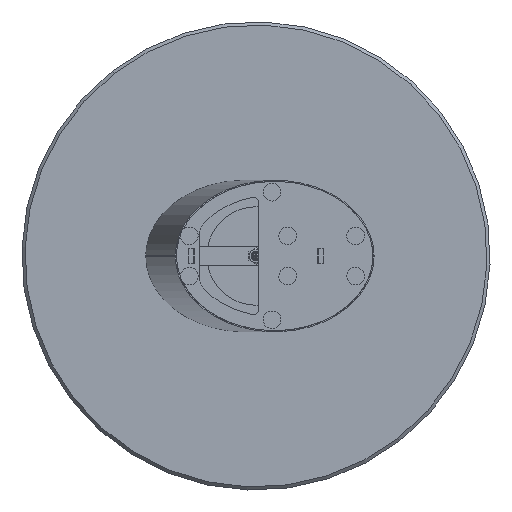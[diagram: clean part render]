
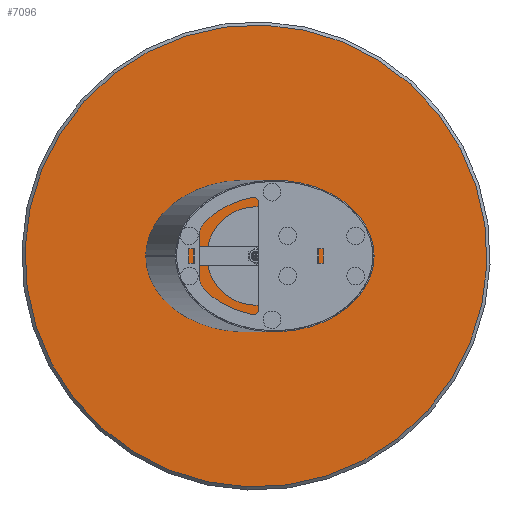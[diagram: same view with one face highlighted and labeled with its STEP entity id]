
A CAD part, front view. The second image highlights one B-rep face of the part: STEP entity #7096.
In plain terms, the highlighted planar face has unit normal (0, -1, 0).
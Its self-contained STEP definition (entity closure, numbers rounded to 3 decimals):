
#338 = DIRECTION ( 'NONE',  ( 0., -1., 0. ) ) ;
#1033 = EDGE_CURVE ( 'NONE', #4639, #6054, #11345, .T. ) ;
#1247 = PLANE ( 'NONE',  #11905 ) ;
#1320 = EDGE_CURVE ( 'NONE', #6054, #4639, #9467, .T. ) ;
#2056 = CARTESIAN_POINT ( 'NONE',  ( 0., 0., 587. ) ) ;
#2091 = DIRECTION ( 'NONE',  ( 0., 0., -1. ) ) ;
#2150 = DIRECTION ( 'NONE',  ( 0., -1., 0. ) ) ;
#2775 = DIRECTION ( 'NONE',  ( 0., 0., -1. ) ) ;
#3700 = CARTESIAN_POINT ( 'NONE',  ( 0., 0., 0. ) ) ;
#3832 = AXIS2_PLACEMENT_3D ( 'NONE', #5498, #338, #8323 ) ;
#4237 = ORIENTED_EDGE ( 'NONE', *, *, #1033, .T. ) ;
#4361 = EDGE_LOOP ( 'NONE', ( #4237, #7728 ) ) ;
#4639 = VERTEX_POINT ( 'NONE', #2056 ) ;
#5230 = FACE_OUTER_BOUND ( 'NONE', #4361, .T. ) ;
#5498 = CARTESIAN_POINT ( 'NONE',  ( 0., 0., 0. ) ) ;
#6054 = VERTEX_POINT ( 'NONE', #9970 ) ;
#6770 = DIRECTION ( 'NONE',  ( 0., -1., 0. ) ) ;
#7096 = ADVANCED_FACE ( 'NONE', ( #5230 ), #1247, .T. ) ;
#7728 = ORIENTED_EDGE ( 'NONE', *, *, #1320, .T. ) ;
#7785 = AXIS2_PLACEMENT_3D ( 'NONE', #3700, #6770, #2775 ) ;
#8323 = DIRECTION ( 'NONE',  ( 0., 0., -1. ) ) ;
#9018 = CARTESIAN_POINT ( 'NONE',  ( 0., 0., 0. ) ) ;
#9467 = CIRCLE ( 'NONE', #3832, 587. ) ;
#9970 = CARTESIAN_POINT ( 'NONE',  ( 0., 0., -587. ) ) ;
#11345 = CIRCLE ( 'NONE', #7785, 587. ) ;
#11905 = AXIS2_PLACEMENT_3D ( 'NONE', #9018, #2150, #2091 ) ;
